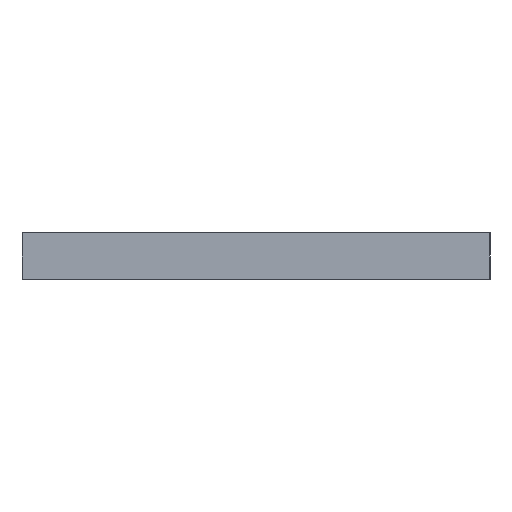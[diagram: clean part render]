
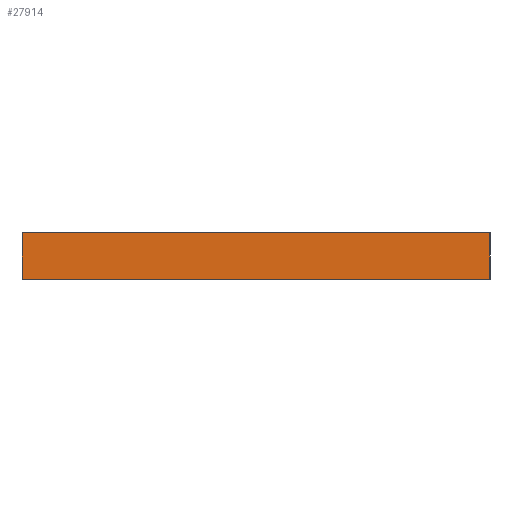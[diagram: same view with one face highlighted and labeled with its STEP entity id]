
A CAD part, left-side view. The second image highlights one B-rep face of the part: STEP entity #27914.
In plain terms, the highlighted planar face has unit normal (-1, 0, 0).
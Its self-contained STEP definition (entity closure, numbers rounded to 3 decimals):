
#1150 = CARTESIAN_POINT ( 'NONE',  ( -215., -52.5, 0. ) ) ;
#1500 = ORIENTED_EDGE ( 'NONE', *, *, #24091, .F. ) ;
#2005 = CARTESIAN_POINT ( 'NONE',  ( -215., 202.5, 0. ) ) ;
#2172 = CARTESIAN_POINT ( 'NONE',  ( -215., 202.5, 0. ) ) ;
#3629 = FACE_OUTER_BOUND ( 'NONE', #11185, .T. ) ;
#4043 = VECTOR ( 'NONE', #19772, 1000. ) ;
#5351 = ORIENTED_EDGE ( 'NONE', *, *, #24050, .F. ) ;
#11185 = EDGE_LOOP ( 'NONE', ( #26275, #1500, #5351, #22537 ) ) ;
#11270 = LINE ( 'NONE', #1150, #19614 ) ;
#11784 = CARTESIAN_POINT ( 'NONE',  ( -215., 202.5, 0. ) ) ;
#11949 = VERTEX_POINT ( 'NONE', #26942 ) ;
#12465 = VECTOR ( 'NONE', #14373, 1000. ) ;
#13157 = VERTEX_POINT ( 'NONE', #20950 ) ;
#14373 = DIRECTION ( 'NONE',  ( 0., 1., 0. ) ) ;
#14605 = VERTEX_POINT ( 'NONE', #31386 ) ;
#14810 = EDGE_CURVE ( 'NONE', #11949, #17945, #27167, .T. ) ;
#17609 = DIRECTION ( 'NONE',  ( 1., 0., 0. ) ) ;
#17945 = VERTEX_POINT ( 'NONE', #25764 ) ;
#18914 = DIRECTION ( 'NONE',  ( 0., 0., 1. ) ) ;
#19614 = VECTOR ( 'NONE', #18914, 1000. ) ;
#19772 = DIRECTION ( 'NONE',  ( 0., 0., 1. ) ) ;
#20950 = CARTESIAN_POINT ( 'NONE',  ( -215., 202.5, 0. ) ) ;
#21870 = EDGE_CURVE ( 'NONE', #14605, #11949, #11270, .T. ) ;
#22012 = DIRECTION ( 'NONE',  ( 0., 1., 0. ) ) ;
#22537 = ORIENTED_EDGE ( 'NONE', *, *, #21870, .T. ) ;
#24050 = EDGE_CURVE ( 'NONE', #14605, #13157, #26732, .T. ) ;
#24091 = EDGE_CURVE ( 'NONE', #13157, #17945, #32326, .T. ) ;
#24947 = PLANE ( 'NONE',  #25017 ) ;
#25017 = AXIS2_PLACEMENT_3D ( 'NONE', #2172, #17609, #27951 ) ;
#25764 = CARTESIAN_POINT ( 'NONE',  ( -215., 202.5, 25.4 ) ) ;
#26275 = ORIENTED_EDGE ( 'NONE', *, *, #14810, .T. ) ;
#26732 = LINE ( 'NONE', #2005, #32717 ) ;
#26942 = CARTESIAN_POINT ( 'NONE',  ( -215., -52.5, 25.4 ) ) ;
#27047 = CARTESIAN_POINT ( 'NONE',  ( -215., 202.5, 25.4 ) ) ;
#27167 = LINE ( 'NONE', #27047, #12465 ) ;
#27914 = ADVANCED_FACE ( 'NONE', ( #3629 ), #24947, .F. ) ;
#27951 = DIRECTION ( 'NONE',  ( 0., -1., 0. ) ) ;
#31386 = CARTESIAN_POINT ( 'NONE',  ( -215., -52.5, 0. ) ) ;
#32326 = LINE ( 'NONE', #11784, #4043 ) ;
#32717 = VECTOR ( 'NONE', #22012, 1000. ) ;
